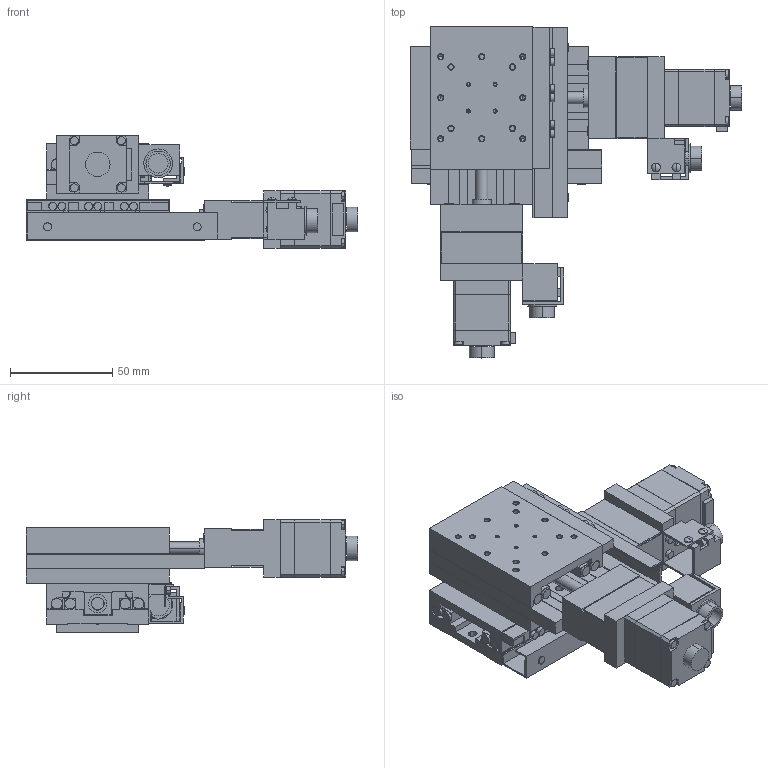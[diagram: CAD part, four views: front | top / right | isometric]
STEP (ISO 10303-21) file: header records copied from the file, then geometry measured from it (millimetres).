
FILE_DESCRIPTION(('STEP AP203'),'1');
FILE_NAME('C:/3D-Trans/3D_PMG530M-R□-T+240122.step','2024-03-14T06:33:35',(' '),(' '),'Spatial InterOp 3D',' ',' ');
FILE_SCHEMA(('CONFIG_CONTROL_DESIGN'));
Length unit declared in the file: millimetre
Products named in the file (13): 1; 2; 3; 4; 5; 6; 7; 8; 9; 10; 11; 12; 13
Bounding box: 162 x 162 x 55 mm (x, y, z)
Volume: 256134 mm3; surface area: 121514.7 mm2
Topology: 13 solids, 13 shells, 1302 faces, 3328 edges, 2096 vertices
Faces by surface type: plane 744, cylinder 390, cone 160, sphere 8
Entity records: 39698 total; most frequent: DIRECTION 6980, CARTESIAN_POINT 6755, ORIENTED_EDGE 6560, EDGE_CURVE 3280, AXIS2_PLACEMENT_3D 2401, LINE 2178, VECTOR 2178, VERTEX_POINT 2096
